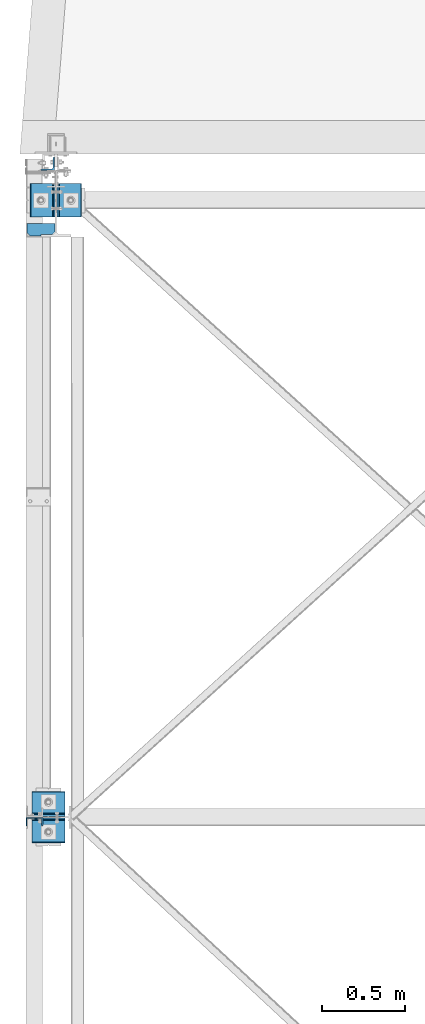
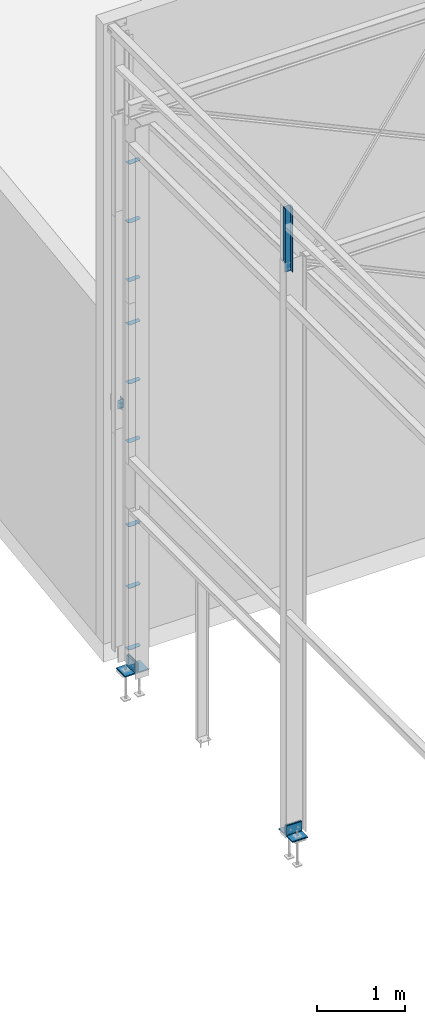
# One storey, part 43 of 123: 15 beams, 15 elements without a shape of their own.
"""IFC2X3 building model written with IfcOpenShell, lengths in millimetres."""

from ifc_helpers import new_model, si_unit, frame, origin_with_axes, origin_2d_with_axis, place, context, subcontext, project, spatial, polyline, l_section, u_section, outline, extrude, boolean, material, type_object, element, aggregate, save


model = new_model("IFC2X3")

# Units and contexts
model_context = context("Model", 3, precision=1e-05, world=origin_with_axes())
body_context = subcontext(model_context, "Body", "Model", "MODEL_VIEW")
ifc_project = project(units=[si_unit("LENGTHUNIT", "METRE", prefix="MILLI"), si_unit("AREAUNIT", "SQUARE_METRE"), si_unit("VOLUMEUNIT", "CUBIC_METRE"), si_unit("MASSUNIT", "GRAM", prefix="KILO"), si_unit("TIMEUNIT", "SECOND"), si_unit("PLANEANGLEUNIT", "RADIAN"), si_unit("SOLIDANGLEUNIT", "STERADIAN"), si_unit("THERMODYNAMICTEMPERATUREUNIT", "DEGREE_CELSIUS"), si_unit("LUMINOUSINTENSITYUNIT", "LUMEN")], contexts=[model_context])

# Site, building, storey
site_placement = place(None, origin_with_axes())
site = spatial("IfcSite", under=ifc_project, at=site_placement, Name="Undefined", CompositionType="ELEMENT")
building_placement = place(site_placement, origin_with_axes())
building = spatial("IfcBuilding", under=site, at=building_placement, Name="Undefined", CompositionType="ELEMENT")
storey_placement = place(building_placement, origin_with_axes())
storey = spatial("IfcBuildingStorey", under=building, at=storey_placement, Name="Undefined", CompositionType="ELEMENT", Elevation=0.0)

# Assembly, beam
assembly_1_placement = place(storey_placement, origin_with_axes())
assembly_1 = element("IfcElementAssembly", 1, at=assembly_1_placement, inside=storey, Name="Steel Assembly", AssemblyPlace="NOTDEFINED", PredefinedType="RIGID_FRAME")
ifc_material = material(Name="STEEL/S235-E24")
beam_type_1 = type_object("IfcBeamType", Name="UPF-100*50*4", PredefinedType="NOTDEFINED")
beam_1_placement = place(assembly_1_placement, frame((-130.000001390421, 11371.7000000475, 8445.0), z_axis=(1.0, 0.0, 0.0), x_axis=(0.0, 0.0, -1.0)))
beam_1 = element("IfcBeam", 2, at=beam_1_placement, type_object=beam_type_1, material=ifc_material, Name="BAIONNETTE", ObjectType="UPF-100*50*4", context=body_context, shape_type="CSG", body=[
    boolean("DIFFERENCE", extrude(u_section(Depth=100.0, FlangeWidth=50.0, WebThickness=4.0, FlangeThickness=4.0, at=origin_2d_with_axis()), frame((909.998684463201, 0.0, 0.0), z_axis=(-1.0, 0.0, 0.0), x_axis=(0.0, -1.0, 0.0)), (0.0, 0.0, 1.0), 910.0), extrude(outline(polyline([(0.0, 0.0), (19.999999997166, 0.0), (19.999999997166, 170.0), (-2.84853740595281e-09, 170.0), (0.0, 0.0)])), frame((739.998684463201, -27.5, -50.0000000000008), z_axis=(0.0, 1.0, 0.0), x_axis=(0.0, 0.0, 1.0)), (0.0, 0.0, 1.0), 55.0)),
])
aggregate(assembly_1, [beam_1])

assembly_2_placement = place(storey_placement, origin_with_axes())
assembly_2 = element("IfcElementAssembly", 3, at=assembly_2_placement, inside=storey, Name="Steel Assembly", AssemblyPlace="NOTDEFINED", PredefinedType="RIGID_FRAME")
beam_type_2 = type_object("IfcBeamType", Name="L80*8", PredefinedType="NOTDEFINED")
beam_2_placement = place(assembly_2_placement, frame((-50.0, 15330.0000024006, 3375.0), z_axis=(-1.0, 0.0, 0.0), x_axis=(0.0, 0.0, -1.0)))
beam_2 = element("IfcBeam", 4, at=beam_2_placement, type_object=beam_type_2, material=ifc_material, Name="ATTACHE", ObjectType="L80*8", context=body_context, shape_type="SweptSolid", body=[
    extrude(l_section(Depth=80.0, Width=80.0, Thickness=8.0, FilletRadius=10.0, EdgeRadius=5.0, at=origin_2d_with_axis()), frame((120.0, 0.0, 0.0), z_axis=(-1.0, 0.0, 0.0), x_axis=(0.0, -1.0, 0.0)), (0.0, 0.0, 1.0), 120.0),
])
aggregate(assembly_2, [beam_2])

assembly_3_placement = place(storey_placement, origin_with_axes())
assembly_3 = element("IfcElementAssembly", 5, at=assembly_3_placement, inside=storey, Name="Steel Assembly", AssemblyPlace="NOTDEFINED", PredefinedType="RIGID_FRAME")
beam_type_3 = type_object("IfcBeamType", Name="L150*15", PredefinedType="NOTDEFINED")
beam_3_placement = place(assembly_3_placement, frame((-80.0028489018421, 15210.0000024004, -174.999999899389), z_axis=(0.0, 0.0, 1.0), x_axis=(0.0, -1.0, 0.0)))
beam_3 = element("IfcBeam", 6, at=beam_3_placement, type_object=beam_type_3, material=ifc_material, Name="ATTACHE", ObjectType="L150*15", context=body_context, shape_type="SweptSolid", body=[
    extrude(l_section(Depth=150.0, Width=150.0, Thickness=15.0, FilletRadius=16.0, EdgeRadius=8.0, at=origin_2d_with_axis()), frame((200.0, 0.0, 0.0), z_axis=(-1.0, 0.0, 0.0), x_axis=(0.0, -1.0, 0.0)), (0.0, 0.0, 1.0), 200.0),
])
aggregate(assembly_3, [beam_3])

assembly_4_placement = place(storey_placement, origin_with_axes())
assembly_4 = element("IfcElementAssembly", 7, at=assembly_4_placement, inside=storey, Name="Steel Assembly", AssemblyPlace="NOTDEFINED", PredefinedType="RIGID_FRAME")
beam_4_placement = place(assembly_4_placement, frame((79.9971510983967, 15010.0000024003, -174.999999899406), z_axis=(0.0, 0.0, 1.0), x_axis=(0.0, 1.0, 0.0)))
beam_4 = element("IfcBeam", 8, at=beam_4_placement, type_object=beam_type_3, material=ifc_material, Name="ATTACHE", ObjectType="L150*15", context=body_context, shape_type="SweptSolid", body=[
    extrude(l_section(Depth=150.0, Width=150.0, Thickness=15.0, FilletRadius=16.0, EdgeRadius=8.0, at=origin_2d_with_axis()), frame((200.0, 0.0, 0.0), z_axis=(-1.0, 0.0, 0.0), x_axis=(0.0, -1.0, 0.0)), (0.0, 0.0, 1.0), 200.0),
])
aggregate(assembly_4, [beam_4])

assembly_5_placement = place(storey_placement, origin_with_axes())
assembly_5 = element("IfcElementAssembly", 9, at=assembly_5_placement, inside=storey, Name="Steel Assembly", AssemblyPlace="NOTDEFINED", PredefinedType="RIGID_FRAME")
beam_5_placement = place(assembly_5_placement, frame((55.0, 11480.0, -175.0), z_axis=(0.0, 0.0, 1.0), x_axis=(-1.0, 0.0, 0.0)))
beam_5 = element("IfcBeam", 10, at=beam_5_placement, type_object=beam_type_3, material=ifc_material, Name="ATTACHE", ObjectType="L150*15", context=body_context, shape_type="SweptSolid", body=[
    extrude(l_section(Depth=150.0, Width=150.0, Thickness=15.0, FilletRadius=16.0, EdgeRadius=8.0, at=origin_2d_with_axis()), frame((200.0, 0.0, 0.0), z_axis=(-1.0, 0.0, 0.0), x_axis=(0.0, -1.0, 0.0)), (0.0, 0.0, 1.0), 200.0),
])
aggregate(assembly_5, [beam_5])

assembly_6_placement = place(storey_placement, origin_with_axes())
assembly_6 = element("IfcElementAssembly", 11, at=assembly_6_placement, inside=storey, Name="Steel Assembly", AssemblyPlace="NOTDEFINED", PredefinedType="RIGID_FRAME")
beam_6_placement = place(assembly_6_placement, frame((-145.0, 11320.0, -175.0), z_axis=(0.0, 0.0, 1.0), x_axis=(1.0, 0.0, 0.0)))
beam_6 = element("IfcBeam", 12, at=beam_6_placement, type_object=beam_type_3, material=ifc_material, Name="ATTACHE", ObjectType="L150*15", context=body_context, shape_type="SweptSolid", body=[
    extrude(l_section(Depth=150.0, Width=150.0, Thickness=15.0, FilletRadius=16.0, EdgeRadius=8.0, at=origin_2d_with_axis()), frame((200.0, 0.0, 0.0), z_axis=(-1.0, 0.0, 0.0), x_axis=(0.0, -1.0, 0.0)), (0.0, 0.0, 1.0), 200.0),
])
aggregate(assembly_6, [beam_6])

assembly_7_placement = place(storey_placement, origin_with_axes())
assembly_7 = element("IfcElementAssembly", 13, at=assembly_7_placement, inside=storey, Name="Steel Assembly", AssemblyPlace="NOTDEFINED", PredefinedType="RIGID_FRAME")
beam_type_4 = type_object("IfcBeamType", Name="PL3*75", PredefinedType="NOTDEFINED")
beam_7_placement = place(assembly_7_placement, frame((-90.4999965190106, 14895.0000042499, 6089.99999425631), z_axis=(0.0, 0.0, 1.0), x_axis=(0.0, 1.0, 0.0)))
beam_7 = element("IfcBeam", 14, at=beam_7_placement, type_object=beam_type_4, material=ifc_material, Name="RAIDISSEUR", ObjectType="PL3*75", context=body_context, shape_type="SweptSolid", body=[
    extrude(outline(polyline([(0.0, 0.0), (8.50000476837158, -2.06767936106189e-11), (8.50000476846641, -65.6999969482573), (28.5000047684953, -85.6999969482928), (75.0000076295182, -85.6999969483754), (75.0000076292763, 84.0000305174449), (20.0000001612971, 84.0000305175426), (1.22893016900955e-07, 64.0000305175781), (0.0, 0.0)])), frame((0.0, 0.0, -1.50000000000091), z_axis=(0.0, 0.0, 1.0), x_axis=(1.0, 0.0, 0.0)), (0.0, 0.0, 1.0), 3.0),
])
aggregate(assembly_7, [beam_7])

assembly_8_placement = place(storey_placement, origin_with_axes())
assembly_8 = element("IfcElementAssembly", 15, at=assembly_8_placement, inside=storey, Name="Steel Assembly", AssemblyPlace="NOTDEFINED", PredefinedType="RIGID_FRAME")
beam_8_placement = place(assembly_8_placement, frame((-90.4999965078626, 14895.0000020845, 3870.00000034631), z_axis=(0.0, 0.0, 1.0), x_axis=(0.0, 1.0, 0.0)))
beam_8 = element("IfcBeam", 16, at=beam_8_placement, type_object=beam_type_4, material=ifc_material, Name="RAIDISSEUR", ObjectType="PL3*75", context=body_context, shape_type="SweptSolid", body=[
    extrude(outline(polyline([(0.0, 0.0), (8.50000476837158, -2.06767936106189e-11), (8.50000476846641, -65.6999969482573), (28.5000047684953, -85.6999969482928), (75.0000076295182, -85.6999969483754), (75.0000076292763, 84.0000305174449), (20.0000001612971, 84.0000305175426), (1.22893016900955e-07, 64.0000305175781), (0.0, 0.0)])), frame((0.0, 0.0, -1.50000000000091), z_axis=(0.0, 0.0, 1.0), x_axis=(1.0, 0.0, 0.0)), (0.0, 0.0, 1.0), 3.0),
])
aggregate(assembly_8, [beam_8])

assembly_9_placement = place(storey_placement, origin_with_axes())
assembly_9 = element("IfcElementAssembly", 17, at=assembly_9_placement, inside=storey, Name="Steel Assembly", AssemblyPlace="NOTDEFINED", PredefinedType="RIGID_FRAME")
beam_9_placement = place(assembly_9_placement, frame((-90.4999965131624, 14895.0000051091, 6899.99998843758), z_axis=(0.0, 0.0, 1.0), x_axis=(0.0, 1.0, 0.0)))
beam_9 = element("IfcBeam", 18, at=beam_9_placement, type_object=beam_type_4, material=ifc_material, Name="RAIDISSEUR", ObjectType="PL3*75", context=body_context, shape_type="SweptSolid", body=[
    extrude(outline(polyline([(0.0, 0.0), (8.50000476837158, -2.06767936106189e-11), (8.50000476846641, -65.6999969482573), (28.5000047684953, -85.6999969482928), (75.0000076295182, -85.6999969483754), (75.0000076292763, 84.0000305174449), (20.0000001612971, 84.0000305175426), (1.22893016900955e-07, 64.0000305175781), (0.0, 0.0)])), frame((0.0, 0.0, -1.50000000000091), z_axis=(0.0, 0.0, 1.0), x_axis=(1.0, 0.0, 0.0)), (0.0, 0.0, 1.0), 3.0),
])
aggregate(assembly_9, [beam_9])

assembly_10_placement = place(storey_placement, origin_with_axes())
assembly_10 = element("IfcElementAssembly", 19, at=assembly_10_placement, inside=storey, Name="Steel Assembly", AssemblyPlace="NOTDEFINED", PredefinedType="RIGID_FRAME")
beam_10_placement = place(assembly_10_placement, frame((-90.4999965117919, 14895.0000033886, 5280.00000007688), z_axis=(0.0, 0.0, 1.0), x_axis=(0.0, 1.0, 0.0)))
beam_10 = element("IfcBeam", 20, at=beam_10_placement, type_object=beam_type_4, material=ifc_material, Name="RAIDISSEUR", ObjectType="PL3*75", context=body_context, shape_type="SweptSolid", body=[
    extrude(outline(polyline([(0.0, 0.0), (8.50000476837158, -2.06767936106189e-11), (8.50000476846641, -65.6999969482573), (28.5000047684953, -85.6999969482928), (75.0000076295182, -85.6999969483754), (75.0000076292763, 84.0000305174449), (20.0000001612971, 84.0000305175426), (1.22893016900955e-07, 64.0000305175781), (0.0, 0.0)])), frame((0.0, 0.0, -1.50000000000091), z_axis=(0.0, 0.0, 1.0), x_axis=(1.0, 0.0, 0.0)), (0.0, 0.0, 1.0), 3.0),
])
aggregate(assembly_10, [beam_10])

assembly_11_placement = place(storey_placement, origin_with_axes())
assembly_11 = element("IfcElementAssembly", 21, at=assembly_11_placement, inside=storey, Name="Steel Assembly", AssemblyPlace="NOTDEFINED", PredefinedType="RIGID_FRAME")
beam_11_placement = place(assembly_11_placement, frame((-90.4999965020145, 14895.0000029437, 4680.00000061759), z_axis=(0.0, 0.0, 1.0), x_axis=(0.0, 1.0, 0.0)))
beam_11 = element("IfcBeam", 22, at=beam_11_placement, type_object=beam_type_4, material=ifc_material, Name="RAIDISSEUR", ObjectType="PL3*75", context=body_context, shape_type="SweptSolid", body=[
    extrude(outline(polyline([(0.0, 0.0), (8.50000476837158, -2.06767936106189e-11), (8.50000476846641, -65.6999969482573), (28.5000047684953, -85.6999969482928), (75.0000076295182, -85.6999969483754), (75.0000076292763, 84.0000305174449), (20.0000001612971, 84.0000305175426), (1.22893016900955e-07, 64.0000305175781), (0.0, 0.0)])), frame((0.0, 0.0, -1.50000000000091), z_axis=(0.0, 0.0, 1.0), x_axis=(1.0, 0.0, 0.0)), (0.0, 0.0, 1.0), 3.0),
])
aggregate(assembly_11, [beam_11])

assembly_12_placement = place(storey_placement, origin_with_axes())
assembly_12 = element("IfcElementAssembly", 23, at=assembly_12_placement, inside=storey, Name="Steel Assembly", AssemblyPlace="NOTDEFINED", PredefinedType="RIGID_FRAME")
beam_12_placement = place(assembly_12_placement, frame((-90.4999964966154, 14895.0000012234, 3060.00000007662), z_axis=(0.0, 0.0, 1.0), x_axis=(0.0, 1.0, 0.0)))
beam_12 = element("IfcBeam", 24, at=beam_12_placement, type_object=beam_type_4, material=ifc_material, Name="RAIDISSEUR", ObjectType="PL3*75", context=body_context, shape_type="SweptSolid", body=[
    extrude(outline(polyline([(0.0, 0.0), (8.50000476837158, -2.06767936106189e-11), (8.50000476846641, -65.6999969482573), (28.5000047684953, -85.6999969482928), (75.0000076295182, -85.6999969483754), (75.0000076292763, 84.0000305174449), (20.0000001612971, 84.0000305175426), (1.22893016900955e-07, 64.0000305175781), (0.0, 0.0)])), frame((0.0, 0.0, -1.50000000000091), z_axis=(0.0, 0.0, 1.0), x_axis=(1.0, 0.0, 0.0)), (0.0, 0.0, 1.0), 3.0),
])
aggregate(assembly_12, [beam_12])

assembly_13_placement = place(storey_placement, origin_with_axes())
assembly_13 = element("IfcElementAssembly", 25, at=assembly_13_placement, inside=storey, Name="Steel Assembly", AssemblyPlace="NOTDEFINED", PredefinedType="RIGID_FRAME")
beam_type_5 = type_object("IfcBeamType", Name="PL5*75", PredefinedType="NOTDEFINED")
beam_13_placement = place(assembly_13_placement, frame((-90.4999965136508, 14894.9999986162, 1049.99999953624), z_axis=(0.0, 0.0, 1.0), x_axis=(0.0, 1.0, 0.0)))
beam_13 = element("IfcBeam", 26, at=beam_13_placement, type_object=beam_type_5, material=ifc_material, Name="RAIDISSEUR", ObjectType="PL5*75", context=body_context, shape_type="SweptSolid", body=[
    extrude(outline(polyline([(0.0, 0.0), (8.50000476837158, -2.06767936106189e-11), (8.50000476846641, -65.6999969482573), (28.5000047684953, -85.6999969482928), (75.0000076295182, -85.6999969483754), (75.0000076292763, 84.0000305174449), (20.0000001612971, 84.0000305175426), (1.22893016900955e-07, 64.0000305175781), (0.0, 0.0)])), frame((0.0, 0.0, -2.5), z_axis=(0.0, 0.0, 1.0), x_axis=(1.0, 0.0, 0.0)), (0.0, 0.0, 1.0), 5.0),
])
aggregate(assembly_13, [beam_13])

assembly_14_placement = place(storey_placement, origin_with_axes())
assembly_14 = element("IfcElementAssembly", 27, at=assembly_14_placement, inside=storey, Name="Steel Assembly", AssemblyPlace="NOTDEFINED", PredefinedType="RIGID_FRAME")
beam_14_placement = place(assembly_14_placement, frame((-90.4999965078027, 14894.9999995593, 1899.99999953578), z_axis=(0.0, 0.0, 1.0), x_axis=(0.0, 1.0, 0.0)))
beam_14 = element("IfcBeam", 28, at=beam_14_placement, type_object=beam_type_5, material=ifc_material, Name="RAIDISSEUR", ObjectType="PL5*75", context=body_context, shape_type="SweptSolid", body=[
    extrude(outline(polyline([(0.0, 0.0), (8.50000476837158, -2.06767936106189e-11), (8.50000476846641, -65.6999969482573), (28.5000047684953, -85.6999969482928), (75.0000076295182, -85.6999969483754), (75.0000076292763, 84.0000305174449), (20.0000001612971, 84.0000305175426), (1.22893016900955e-07, 64.0000305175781), (0.0, 0.0)])), frame((0.0, 0.0, -2.5), z_axis=(0.0, 0.0, 1.0), x_axis=(1.0, 0.0, 0.0)), (0.0, 0.0, 1.0), 5.0),
])
aggregate(assembly_14, [beam_14])

assembly_15_placement = place(storey_placement, origin_with_axes())
assembly_15 = element("IfcElementAssembly", 29, at=assembly_15_placement, inside=storey, Name="Steel Assembly", AssemblyPlace="NOTDEFINED", PredefinedType="RIGID_FRAME")
beam_15_placement = place(assembly_15_placement, frame((-90.4999965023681, 14894.9999976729, 199.999999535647), z_axis=(0.0, 0.0, 1.0), x_axis=(0.0, 1.0, 0.0)))
beam_15 = element("IfcBeam", 30, at=beam_15_placement, type_object=beam_type_5, material=ifc_material, Name="RAIDISSEUR", ObjectType="PL5*75", context=body_context, shape_type="SweptSolid", body=[
    extrude(outline(polyline([(0.0, 0.0), (8.50000476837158, -2.06767936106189e-11), (8.50000476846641, -65.6999969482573), (28.5000047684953, -85.6999969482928), (75.0000076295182, -85.6999969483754), (75.0000076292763, 84.0000305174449), (20.0000001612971, 84.0000305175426), (1.22893016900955e-07, 64.0000305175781), (0.0, 0.0)])), frame((0.0, 0.0, -2.5), z_axis=(0.0, 0.0, 1.0), x_axis=(1.0, 0.0, 0.0)), (0.0, 0.0, 1.0), 5.0),
])
aggregate(assembly_15, [beam_15])

save(model, "model.ifc")
